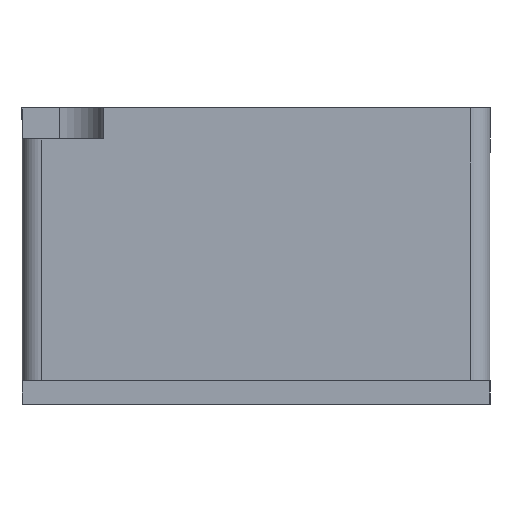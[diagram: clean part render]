
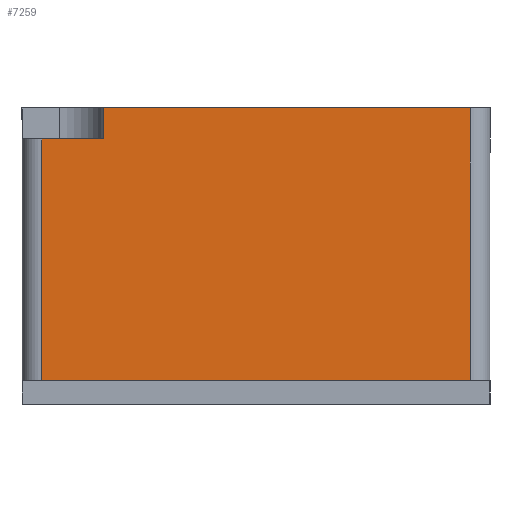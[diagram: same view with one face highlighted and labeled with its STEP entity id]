
A CAD part, left-side view. The second image highlights one B-rep face of the part: STEP entity #7259.
In plain terms, the highlighted planar face has unit normal (-1, 0, 0).
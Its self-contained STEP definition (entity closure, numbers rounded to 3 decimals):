
#707 = DIRECTION ( 'NONE',  ( 1., 0., 0. ) ) ;
#773 = EDGE_CURVE ( 'NONE', #8133, #7621, #1619, .T. ) ;
#865 = DIRECTION ( 'NONE',  ( 0., -1., 0. ) ) ;
#1069 = VECTOR ( 'NONE', #8773, 1000. ) ;
#1128 = ORIENTED_EDGE ( 'NONE', *, *, #5488, .F. ) ;
#1286 = CARTESIAN_POINT ( 'NONE',  ( 72.558, 12.424, 0.1 ) ) ;
#1335 = CARTESIAN_POINT ( 'NONE',  ( 72.558, 9.224, 2.1 ) ) ;
#1619 = LINE ( 'NONE', #6793, #1069 ) ;
#1825 = DIRECTION ( 'NONE',  ( 0., 0., -1. ) ) ;
#2188 = CARTESIAN_POINT ( 'NONE',  ( 72.558, 1.424, 2.1 ) ) ;
#2319 = VECTOR ( 'NONE', #1825, 1000. ) ;
#2430 = VERTEX_POINT ( 'NONE', #7861 ) ;
#2650 = FACE_OUTER_BOUND ( 'NONE', #8276, .T. ) ;
#2734 = DIRECTION ( 'NONE',  ( 0., 0., -1. ) ) ;
#2802 = PLANE ( 'NONE',  #4179 ) ;
#2861 = ORIENTED_EDGE ( 'NONE', *, *, #773, .T. ) ;
#3077 = LINE ( 'NONE', #4655, #3184 ) ;
#3111 = ORIENTED_EDGE ( 'NONE', *, *, #7150, .F. ) ;
#3184 = VECTOR ( 'NONE', #4010, 1000. ) ;
#3422 = EDGE_CURVE ( 'NONE', #5083, #2430, #4317, .T. ) ;
#3641 = CARTESIAN_POINT ( 'NONE',  ( 72.558, -9.576, 0.1 ) ) ;
#4010 = DIRECTION ( 'NONE',  ( 0., -1., 0. ) ) ;
#4179 = AXIS2_PLACEMENT_3D ( 'NONE', #2188, #707, #7094 ) ;
#4317 = LINE ( 'NONE', #1335, #6605 ) ;
#4655 = CARTESIAN_POINT ( 'NONE',  ( 72.558, 1.424, 12.5 ) ) ;
#5003 = CARTESIAN_POINT ( 'NONE',  ( 72.558, 12.424, 12.5 ) ) ;
#5052 = CARTESIAN_POINT ( 'NONE',  ( 72.558, 12.424, 14.1 ) ) ;
#5083 = VERTEX_POINT ( 'NONE', #8140 ) ;
#5372 = CARTESIAN_POINT ( 'NONE',  ( 72.558, 12.424, 0.1 ) ) ;
#5412 = VERTEX_POINT ( 'NONE', #5003 ) ;
#5488 = EDGE_CURVE ( 'NONE', #5083, #7621, #7014, .T. ) ;
#5620 = ORIENTED_EDGE ( 'NONE', *, *, #3422, .T. ) ;
#5765 = EDGE_CURVE ( 'NONE', #8133, #6293, #7126, .T. ) ;
#5934 = ORIENTED_EDGE ( 'NONE', *, *, #7088, .T. ) ;
#6029 = CARTESIAN_POINT ( 'NONE',  ( 72.558, 12.424, 3.1 ) ) ;
#6119 = VECTOR ( 'NONE', #865, 1000. ) ;
#6293 = VERTEX_POINT ( 'NONE', #1286 ) ;
#6580 = CARTESIAN_POINT ( 'NONE',  ( 72.558, -9.576, 14.1 ) ) ;
#6605 = VECTOR ( 'NONE', #2734, 1000. ) ;
#6683 = LINE ( 'NONE', #6029, #2319 ) ;
#6793 = CARTESIAN_POINT ( 'NONE',  ( 72.558, -9.576, 2.1 ) ) ;
#7014 = LINE ( 'NONE', #5052, #6119 ) ;
#7088 = EDGE_CURVE ( 'NONE', #5412, #6293, #6683, .T. ) ;
#7094 = DIRECTION ( 'NONE',  ( 0., 0., -1. ) ) ;
#7126 = LINE ( 'NONE', #5372, #7563 ) ;
#7150 = EDGE_CURVE ( 'NONE', #5412, #2430, #3077, .T. ) ;
#7259 = ADVANCED_FACE ( 'NONE', ( #2650 ), #2802, .F. ) ;
#7563 = VECTOR ( 'NONE', #8158, 1000. ) ;
#7621 = VERTEX_POINT ( 'NONE', #6580 ) ;
#7861 = CARTESIAN_POINT ( 'NONE',  ( 72.558, 9.224, 12.5 ) ) ;
#8133 = VERTEX_POINT ( 'NONE', #3641 ) ;
#8140 = CARTESIAN_POINT ( 'NONE',  ( 72.558, 9.224, 14.1 ) ) ;
#8158 = DIRECTION ( 'NONE',  ( 0., 1., 0. ) ) ;
#8276 = EDGE_LOOP ( 'NONE', ( #1128, #5620, #3111, #5934, #8713, #2861 ) ) ;
#8713 = ORIENTED_EDGE ( 'NONE', *, *, #5765, .F. ) ;
#8773 = DIRECTION ( 'NONE',  ( 0., 0., 1. ) ) ;
